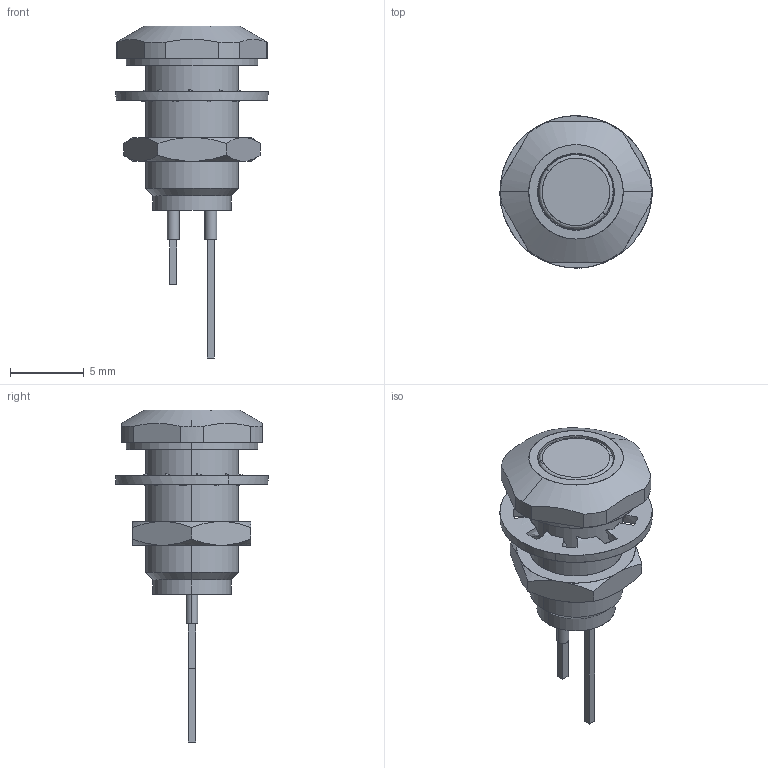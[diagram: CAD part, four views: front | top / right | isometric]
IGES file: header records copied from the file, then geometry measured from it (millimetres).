
Start section: SolidWorks IGES file using analytic representation for surfaces
Global section: file name: C:\Users\paulr\Desktop\STEP-IGES FILES\662 SERIES\662 series.IGS; native system: SolidWorks 2015; preprocessor: SolidWorks 2015; author: PaulR; date: 160106.121414; units: millimetre
Bounding box: 10.33 x 10.32 x 22.5 mm (x, y, z)
Surface area: 1003.6 mm2 (no closed solid volume)
Topology: 0 solids, 0 shells, 161 faces, 2119 edges, 2119 vertices
Faces by surface type: revolution 82, bspline 79
